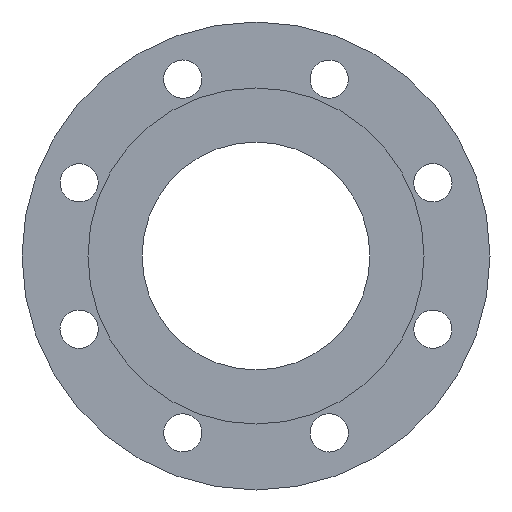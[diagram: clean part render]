
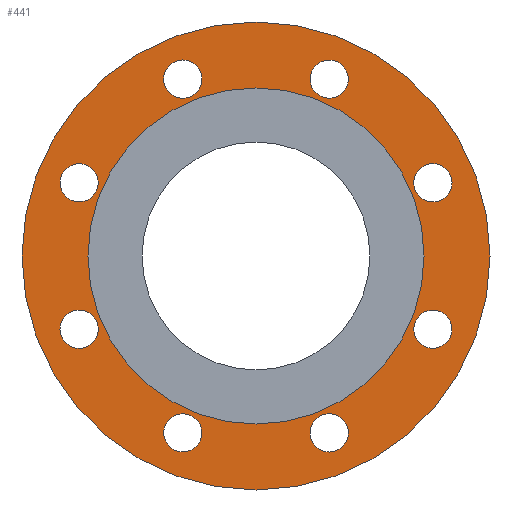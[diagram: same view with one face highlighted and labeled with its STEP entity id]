
A CAD part, left-side view. The second image highlights one B-rep face of the part: STEP entity #441.
In plain terms, the highlighted planar face has unit normal (-1, 0, 0).
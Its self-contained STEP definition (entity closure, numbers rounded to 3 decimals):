
#27=FACE_BOUND('',#90,.T.);
#28=FACE_BOUND('',#91,.T.);
#29=FACE_BOUND('',#92,.T.);
#30=FACE_BOUND('',#93,.T.);
#31=FACE_BOUND('',#94,.T.);
#32=FACE_BOUND('',#95,.T.);
#33=FACE_BOUND('',#96,.T.);
#34=FACE_BOUND('',#97,.T.);
#35=FACE_BOUND('',#98,.T.);
#40=PLANE('',#524);
#58=FACE_OUTER_BOUND('',#89,.T.);
#89=EDGE_LOOP('',(#382,#383));
#90=EDGE_LOOP('',(#384));
#91=EDGE_LOOP('',(#385));
#92=EDGE_LOOP('',(#386));
#93=EDGE_LOOP('',(#387));
#94=EDGE_LOOP('',(#388));
#95=EDGE_LOOP('',(#389));
#96=EDGE_LOOP('',(#390));
#97=EDGE_LOOP('',(#391));
#98=EDGE_LOOP('',(#392,#393));
#134=CIRCLE('',#469,9.);
#137=CIRCLE('',#473,9.);
#140=CIRCLE('',#477,9.);
#143=CIRCLE('',#481,9.);
#146=CIRCLE('',#485,9.);
#149=CIRCLE('',#489,9.);
#152=CIRCLE('',#493,9.);
#155=CIRCLE('',#497,9.);
#173=CIRCLE('',#522,79.);
#174=CIRCLE('',#523,79.);
#175=CIRCLE('',#525,110.);
#176=CIRCLE('',#526,110.);
#182=VERTEX_POINT('',#692);
#185=VERTEX_POINT('',#700);
#188=VERTEX_POINT('',#708);
#191=VERTEX_POINT('',#716);
#194=VERTEX_POINT('',#724);
#197=VERTEX_POINT('',#732);
#200=VERTEX_POINT('',#740);
#203=VERTEX_POINT('',#748);
#220=VERTEX_POINT('',#793);
#221=VERTEX_POINT('',#794);
#222=VERTEX_POINT('',#799);
#223=VERTEX_POINT('',#800);
#230=EDGE_CURVE('',#182,#182,#134,.T.);
#234=EDGE_CURVE('',#185,#185,#137,.T.);
#238=EDGE_CURVE('',#188,#188,#140,.T.);
#242=EDGE_CURVE('',#191,#191,#143,.T.);
#246=EDGE_CURVE('',#194,#194,#146,.T.);
#250=EDGE_CURVE('',#197,#197,#149,.T.);
#254=EDGE_CURVE('',#200,#200,#152,.T.);
#258=EDGE_CURVE('',#203,#203,#155,.T.);
#278=EDGE_CURVE('',#220,#221,#173,.T.);
#279=EDGE_CURVE('',#221,#220,#174,.T.);
#281=EDGE_CURVE('',#222,#223,#175,.T.);
#282=EDGE_CURVE('',#223,#222,#176,.T.);
#382=ORIENTED_EDGE('',*,*,#281,.F.);
#383=ORIENTED_EDGE('',*,*,#282,.F.);
#384=ORIENTED_EDGE('',*,*,#230,.T.);
#385=ORIENTED_EDGE('',*,*,#234,.T.);
#386=ORIENTED_EDGE('',*,*,#238,.T.);
#387=ORIENTED_EDGE('',*,*,#242,.T.);
#388=ORIENTED_EDGE('',*,*,#246,.T.);
#389=ORIENTED_EDGE('',*,*,#250,.T.);
#390=ORIENTED_EDGE('',*,*,#254,.T.);
#391=ORIENTED_EDGE('',*,*,#258,.T.);
#392=ORIENTED_EDGE('',*,*,#278,.T.);
#393=ORIENTED_EDGE('',*,*,#279,.T.);
#441=ADVANCED_FACE('',(#58,#27,#28,#29,#30,#31,#32,#33,#34,#35),#40,.T.);
#469=AXIS2_PLACEMENT_3D('',#694,#543,#544);
#473=AXIS2_PLACEMENT_3D('',#702,#552,#553);
#477=AXIS2_PLACEMENT_3D('',#710,#561,#562);
#481=AXIS2_PLACEMENT_3D('',#718,#570,#571);
#485=AXIS2_PLACEMENT_3D('',#726,#579,#580);
#489=AXIS2_PLACEMENT_3D('',#734,#588,#589);
#493=AXIS2_PLACEMENT_3D('',#742,#597,#598);
#497=AXIS2_PLACEMENT_3D('',#750,#606,#607);
#522=AXIS2_PLACEMENT_3D('',#795,#658,#659);
#523=AXIS2_PLACEMENT_3D('',#796,#660,#661);
#524=AXIS2_PLACEMENT_3D('',#798,#663,#664);
#525=AXIS2_PLACEMENT_3D('',#801,#665,#666);
#526=AXIS2_PLACEMENT_3D('',#802,#667,#668);
#543=DIRECTION('center_axis',(1.,0.,0.));
#544=DIRECTION('ref_axis',(0.,-0.707,-0.707));
#552=DIRECTION('center_axis',(1.,0.,0.));
#553=DIRECTION('ref_axis',(0.,-1.,0.));
#561=DIRECTION('center_axis',(1.,0.,0.));
#562=DIRECTION('ref_axis',(0.,-0.707,0.707));
#570=DIRECTION('center_axis',(1.,0.,0.));
#571=DIRECTION('ref_axis',(0.,0.,1.));
#579=DIRECTION('center_axis',(1.,0.,0.));
#580=DIRECTION('ref_axis',(0.,0.707,0.707));
#588=DIRECTION('center_axis',(1.,0.,0.));
#589=DIRECTION('ref_axis',(0.,1.,0.));
#597=DIRECTION('center_axis',(1.,0.,0.));
#598=DIRECTION('ref_axis',(0.,0.707,-0.707));
#606=DIRECTION('center_axis',(1.,0.,0.));
#607=DIRECTION('ref_axis',(0.,0.,-1.));
#658=DIRECTION('center_axis',(1.,0.,0.));
#659=DIRECTION('ref_axis',(0.,0.,-1.));
#660=DIRECTION('center_axis',(1.,0.,0.));
#661=DIRECTION('ref_axis',(0.,0.,-1.));
#663=DIRECTION('center_axis',(-1.,0.,0.));
#664=DIRECTION('ref_axis',(0.,0.,1.));
#665=DIRECTION('center_axis',(1.,0.,0.));
#666=DIRECTION('ref_axis',(0.,0.,-1.));
#667=DIRECTION('center_axis',(1.,0.,0.));
#668=DIRECTION('ref_axis',(0.,0.,-1.));
#692=CARTESIAN_POINT('',(-49.,89.513,40.805));
#694=CARTESIAN_POINT('Origin',(-49.,83.149,34.442));
#700=CARTESIAN_POINT('',(-49.,92.149,-34.442));
#702=CARTESIAN_POINT('Origin',(-49.,83.149,-34.442));
#708=CARTESIAN_POINT('',(-49.,40.805,-89.513));
#710=CARTESIAN_POINT('Origin',(-49.,34.442,-83.149));
#716=CARTESIAN_POINT('',(-49.,-34.442,-92.149));
#718=CARTESIAN_POINT('Origin',(-49.,-34.442,-83.149));
#724=CARTESIAN_POINT('',(-49.,-89.513,-40.805));
#726=CARTESIAN_POINT('Origin',(-49.,-83.149,-34.442));
#732=CARTESIAN_POINT('',(-49.,-92.149,34.442));
#734=CARTESIAN_POINT('Origin',(-49.,-83.149,34.442));
#740=CARTESIAN_POINT('',(-49.,-40.805,89.513));
#742=CARTESIAN_POINT('Origin',(-49.,-34.442,83.149));
#748=CARTESIAN_POINT('',(-49.,34.442,92.149));
#750=CARTESIAN_POINT('Origin',(-49.,34.442,83.149));
#793=CARTESIAN_POINT('',(-49.,79.,0.));
#794=CARTESIAN_POINT('',(-49.,-79.,0.));
#795=CARTESIAN_POINT('Origin',(-49.,0.,0.));
#796=CARTESIAN_POINT('Origin',(-49.,0.,0.));
#798=CARTESIAN_POINT('Origin',(-49.,110.,0.));
#799=CARTESIAN_POINT('',(-49.,110.,0.));
#800=CARTESIAN_POINT('',(-49.,-110.,0.));
#801=CARTESIAN_POINT('Origin',(-49.,0.,0.));
#802=CARTESIAN_POINT('Origin',(-49.,0.,0.));
